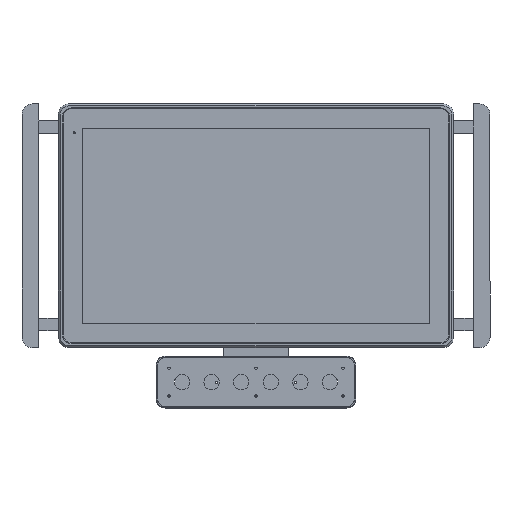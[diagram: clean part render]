
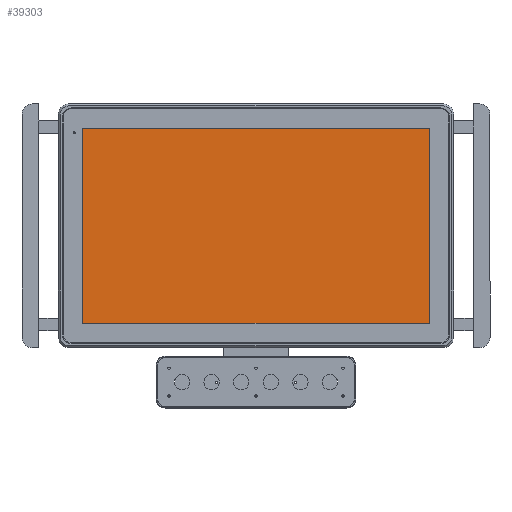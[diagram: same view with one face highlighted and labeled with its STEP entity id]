
A CAD part, front view. The second image highlights one B-rep face of the part: STEP entity #39303.
In plain terms, the highlighted planar face has unit normal (0, -1, 0).
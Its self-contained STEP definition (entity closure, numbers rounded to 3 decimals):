
#826 = CARTESIAN_POINT ( 'NONE',  ( 0., 9.667, 547.75 ) ) ;
#3606 = VERTEX_POINT ( 'NONE', #37800 ) ;
#4574 = ORIENTED_EDGE ( 'NONE', *, *, #30243, .T. ) ;
#6407 = VERTEX_POINT ( 'NONE', #49154 ) ;
#6562 = CARTESIAN_POINT ( 'NONE',  ( 263.52, 9.667, 698.48 ) ) ;
#7892 = DIRECTION ( 'NONE',  ( 0., 0., -1. ) ) ;
#13782 = PLANE ( 'NONE',  #15004 ) ;
#15004 = AXIS2_PLACEMENT_3D ( 'NONE', #826, #43340, #22078 ) ;
#15746 = VECTOR ( 'NONE', #36096, 1000. ) ;
#18904 = CARTESIAN_POINT ( 'NONE',  ( -263.52, 9.667, 698.48 ) ) ;
#19767 = EDGE_CURVE ( 'NONE', #21023, #6407, #45713, .T. ) ;
#21023 = VERTEX_POINT ( 'NONE', #40262 ) ;
#22078 = DIRECTION ( 'NONE',  ( 0., 0., -1. ) ) ;
#22571 = CARTESIAN_POINT ( 'NONE',  ( 263.52, 9.667, 402.02 ) ) ;
#25515 = EDGE_CURVE ( 'NONE', #6407, #41977, #54182, .T. ) ;
#25937 = FACE_OUTER_BOUND ( 'NONE', #40399, .T. ) ;
#29930 = ORIENTED_EDGE ( 'NONE', *, *, #25515, .T. ) ;
#30243 = EDGE_CURVE ( 'NONE', #3606, #21023, #31322, .T. ) ;
#31322 = LINE ( 'NONE', #18904, #40494 ) ;
#32175 = VECTOR ( 'NONE', #53641, 1000. ) ;
#35750 = DIRECTION ( 'NONE',  ( -1., 0., 0. ) ) ;
#36096 = DIRECTION ( 'NONE',  ( 0., 0., 1. ) ) ;
#37418 = CARTESIAN_POINT ( 'NONE',  ( -263.52, 9.667, 698.48 ) ) ;
#37800 = CARTESIAN_POINT ( 'NONE',  ( 263.52, 9.667, 698.48 ) ) ;
#38279 = ORIENTED_EDGE ( 'NONE', *, *, #19767, .T. ) ;
#39303 = ADVANCED_FACE ( 'NONE', ( #25937 ), #13782, .T. ) ;
#40262 = CARTESIAN_POINT ( 'NONE',  ( -263.52, 9.667, 698.48 ) ) ;
#40399 = EDGE_LOOP ( 'NONE', ( #38279, #29930, #42806, #4574 ) ) ;
#40494 = VECTOR ( 'NONE', #35750, 1000. ) ;
#41977 = VERTEX_POINT ( 'NONE', #22571 ) ;
#42212 = EDGE_CURVE ( 'NONE', #41977, #3606, #49610, .T. ) ;
#42806 = ORIENTED_EDGE ( 'NONE', *, *, #42212, .T. ) ;
#43340 = DIRECTION ( 'NONE',  ( 0., -1., 0. ) ) ;
#45132 = CARTESIAN_POINT ( 'NONE',  ( -263.52, 9.667, 402.02 ) ) ;
#45713 = LINE ( 'NONE', #37418, #47504 ) ;
#47504 = VECTOR ( 'NONE', #7892, 1000. ) ;
#49154 = CARTESIAN_POINT ( 'NONE',  ( -263.52, 9.667, 402.02 ) ) ;
#49610 = LINE ( 'NONE', #6562, #15746 ) ;
#53641 = DIRECTION ( 'NONE',  ( 1., 0., 0. ) ) ;
#54182 = LINE ( 'NONE', #45132, #32175 ) ;
